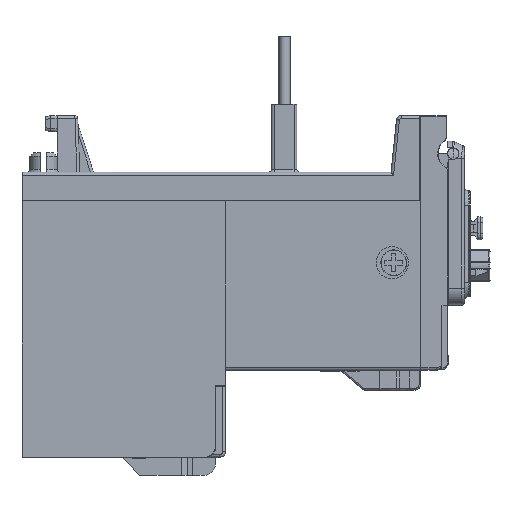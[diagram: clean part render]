
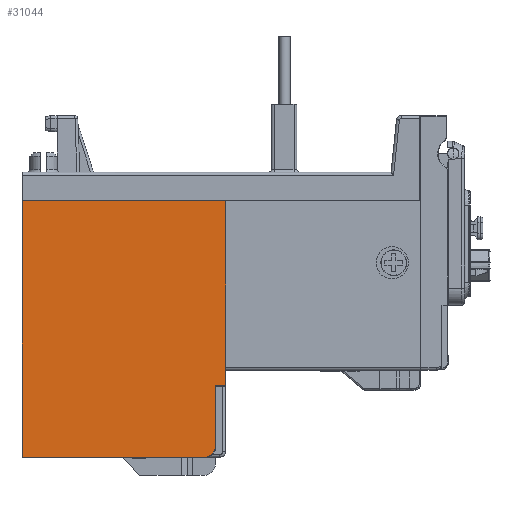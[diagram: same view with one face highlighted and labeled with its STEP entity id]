
A CAD part, front view. The second image highlights one B-rep face of the part: STEP entity #31044.
In plain terms, the highlighted planar face has unit normal (0, -1, 0).
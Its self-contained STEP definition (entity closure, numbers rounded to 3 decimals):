
#4137=PLANE('',#104517);
#8858=LINE('',#144064,#20233);
#8931=LINE('',#144243,#20306);
#9019=LINE('',#144429,#20394);
#9028=LINE('',#144445,#20403);
#9041=LINE('',#144475,#20416);
#9042=LINE('',#144478,#20417);
#20233=VECTOR('',#114771,1.);
#20306=VECTOR('',#114858,1.);
#20394=VECTOR('',#114988,1.);
#20403=VECTOR('',#114999,1.);
#20416=VECTOR('',#115030,1.);
#20417=VECTOR('',#115033,1.);
#31044=ADVANCED_FACE('',(#36690),#4137,.T.);
#36690=FACE_OUTER_BOUND('',#42082,.T.);
#42082=EDGE_LOOP('',(#51036,#51037,#51038,#51039,#51040,#51041,#51042));
#51036=ORIENTED_EDGE('',*,*,#88455,.F.);
#51037=ORIENTED_EDGE('',*,*,#88559,.T.);
#51038=ORIENTED_EDGE('',*,*,#88550,.F.);
#51039=ORIENTED_EDGE('',*,*,#88574,.T.);
#51040=ORIENTED_EDGE('',*,*,#88378,.F.);
#51041=ORIENTED_EDGE('',*,*,#88575,.T.);
#51042=ORIENTED_EDGE('',*,*,#88576,.T.);
#78073=VERTEX_POINT('',#144063);
#78074=VERTEX_POINT('',#144065);
#78146=VERTEX_POINT('',#144242);
#78147=VERTEX_POINT('',#144244);
#78223=VERTEX_POINT('',#144428);
#78224=VERTEX_POINT('',#144430);
#78238=VERTEX_POINT('',#144477);
#88378=EDGE_CURVE('',#78073,#78074,#8858,.T.);
#88455=EDGE_CURVE('',#78146,#78147,#8931,.T.);
#88550=EDGE_CURVE('',#78223,#78224,#9019,.T.);
#88559=EDGE_CURVE('',#78146,#78224,#9028,.T.);
#88574=EDGE_CURVE('',#78223,#78074,#9041,.T.);
#88575=EDGE_CURVE('',#78073,#78238,#101669,.T.);
#88576=EDGE_CURVE('',#78238,#78147,#9042,.T.);
#101669=CIRCLE('',#104516,2.);
#104516=AXIS2_PLACEMENT_3D('',#144476,#115031,#115032);
#104517=AXIS2_PLACEMENT_3D('',#144479,#115034,#115035);
#114771=DIRECTION('',(-1.,0.,0.));
#114858=DIRECTION('',(-1.,0.,0.));
#114988=DIRECTION('',(1.,0.,0.));
#114999=DIRECTION('',(0.,0.,1.));
#115030=DIRECTION('',(0.,0.,-1.));
#115031=DIRECTION('',(0.,-1.,0.));
#115032=DIRECTION('',(0.,0.,-1.));
#115033=DIRECTION('',(0.,0.,1.));
#115034=DIRECTION('',(0.,-1.,0.));
#115035=DIRECTION('',(1.,0.,0.));
#144063=CARTESIAN_POINT('',(136.122,-145.24,18.635));
#144064=CARTESIAN_POINT('',(103.922,-145.24,18.635));
#144065=CARTESIAN_POINT('',(103.922,-145.24,18.635));
#144242=CARTESIAN_POINT('',(139.922,-145.24,31.335));
#144243=CARTESIAN_POINT('',(139.422,-145.24,31.335));
#144244=CARTESIAN_POINT('',(138.122,-145.24,31.335));
#144428=CARTESIAN_POINT('',(103.922,-145.24,64.035));
#144429=CARTESIAN_POINT('',(103.922,-145.24,64.035));
#144430=CARTESIAN_POINT('',(139.922,-145.24,64.035));
#144445=CARTESIAN_POINT('',(139.922,-145.24,34.035));
#144475=CARTESIAN_POINT('',(103.922,-145.24,64.035));
#144476=CARTESIAN_POINT('',(136.122,-145.24,20.635));
#144477=CARTESIAN_POINT('',(138.122,-145.24,20.635));
#144478=CARTESIAN_POINT('',(138.122,-145.24,20.635));
#144479=CARTESIAN_POINT('',(103.922,-145.24,64.035));
